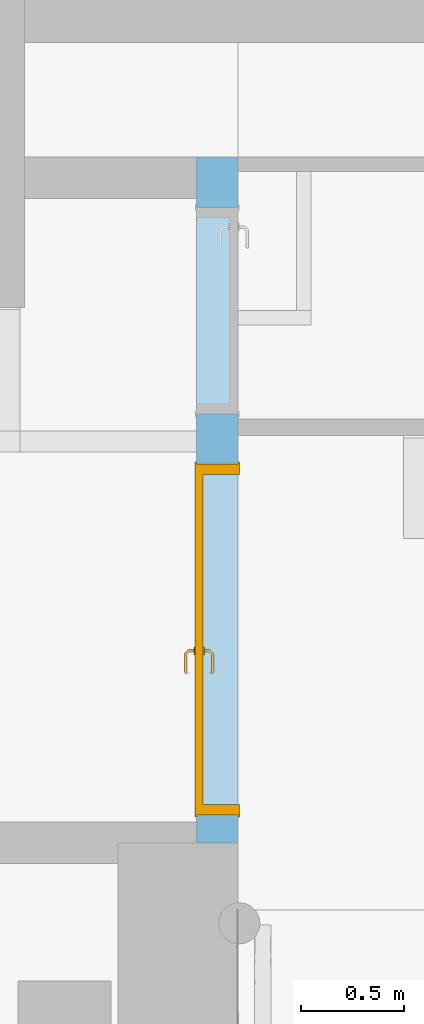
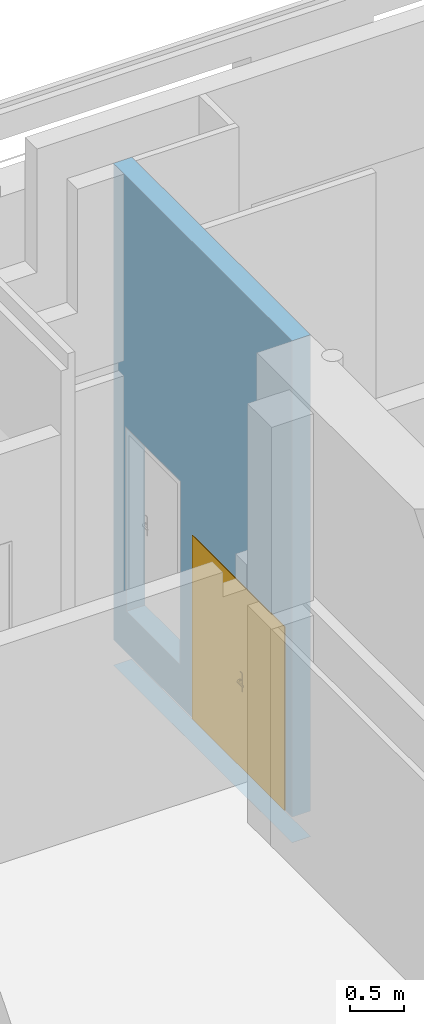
# One storey, part 17 of 39: 1 door, 2 openings, plus 1 element that does not belong to this part.
"""IFC4 building model written with IfcOpenShell, lengths in metres."""

from ifc_helpers import new_model, entity, si_unit, converted_unit, derived_unit, direction, frame, origin, place, context, subcontext, project, spatial, indexed_curve, outline, extrude, polygons, source, transform, mapped, material, material_list, layer, layer_set, constituent, constituent_set, type_object, type_shapes, element, fill, save


model = new_model("IFC4")

# Units and contexts
model_context = context("Model", 3, precision=1e-05, world=origin(), true_north=direction((6.12303176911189e-17, 1.0)))
body_context = subcontext(model_context, "Body", "Model", "MODEL_VIEW")
ifc_project = project(units=[si_unit("LENGTHUNIT", "METRE"), si_unit("AREAUNIT", "SQUARE_METRE"), si_unit("VOLUMEUNIT", "CUBIC_METRE"), converted_unit("PLANEANGLEUNIT", "DEGREE", entity("IfcRatioMeasure", 0.0174532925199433), si_unit("PLANEANGLEUNIT", "RADIAN"), dimensions=[0, 0, 0, 0, 0, 0, 0]), si_unit("MASSUNIT", "GRAM", prefix="KILO"), derived_unit("MASSDENSITYUNIT", [(si_unit("MASSUNIT", "GRAM", prefix="KILO"), 1), (si_unit("LENGTHUNIT", "METRE"), -3)]), derived_unit("MOMENTOFINERTIAUNIT", [(si_unit("LENGTHUNIT", "METRE"), 4)]), si_unit("TIMEUNIT", "SECOND"), si_unit("FREQUENCYUNIT", "HERTZ"), si_unit("THERMODYNAMICTEMPERATUREUNIT", "DEGREE_CELSIUS"), derived_unit("THERMALTRANSMITTANCEUNIT", [(si_unit("MASSUNIT", "GRAM", prefix="KILO"), 1), (si_unit("THERMODYNAMICTEMPERATUREUNIT", "KELVIN"), -1), (si_unit("TIMEUNIT", "SECOND"), -3)]), derived_unit("VOLUMETRICFLOWRATEUNIT", [(si_unit("LENGTHUNIT", "METRE"), 3), (si_unit("TIMEUNIT", "SECOND"), -1)]), si_unit("ELECTRICCURRENTUNIT", "AMPERE"), si_unit("ELECTRICVOLTAGEUNIT", "VOLT"), si_unit("POWERUNIT", "WATT"), si_unit("FORCEUNIT", "NEWTON", prefix="KILO"), si_unit("ILLUMINANCEUNIT", "LUX"), si_unit("LUMINOUSFLUXUNIT", "LUMEN"), si_unit("LUMINOUSINTENSITYUNIT", "CANDELA"), derived_unit("USERDEFINED", [(si_unit("MASSUNIT", "GRAM", prefix="KILO"), -1), (si_unit("LENGTHUNIT", "METRE"), -2), (si_unit("TIMEUNIT", "SECOND"), 3), (si_unit("LUMINOUSFLUXUNIT", "LUMEN"), 1)]), derived_unit("LINEARVELOCITYUNIT", [(si_unit("LENGTHUNIT", "METRE"), 1), (si_unit("TIMEUNIT", "SECOND"), -1)]), si_unit("PRESSUREUNIT", "PASCAL"), derived_unit("USERDEFINED", [(si_unit("LENGTHUNIT", "METRE"), -2), (si_unit("MASSUNIT", "GRAM", prefix="KILO"), 1), (si_unit("TIMEUNIT", "SECOND"), -2)]), derived_unit("LINEARFORCEUNIT", [(si_unit("MASSUNIT", "GRAM", prefix="KILO"), 1), (si_unit("LENGTHUNIT", "METRE"), 1), (si_unit("TIMEUNIT", "SECOND"), -2), (si_unit("LENGTHUNIT", "METRE"), -1)]), derived_unit("PLANARFORCEUNIT", [(si_unit("MASSUNIT", "GRAM", prefix="KILO"), 1), (si_unit("LENGTHUNIT", "METRE"), 1), (si_unit("TIMEUNIT", "SECOND"), -2), (si_unit("LENGTHUNIT", "METRE"), -2)])], contexts=[model_context])

# Site, building, storey
site_placement = place(None, origin())
site = spatial("IfcSite", under=ifc_project, at=site_placement, Name="Default", CompositionType="ELEMENT")
building_placement = place(site_placement, origin())
building = spatial("IfcBuilding", under=site, at=building_placement, Name="HOTEL CONSULAIRE BOULOGNE SUR MER", CompositionType="ELEMENT")
storey_placement = place(building_placement, frame((0.0, 0.0, -5.02343668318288)))
storey = spatial("IfcBuildingStorey", under=building, at=storey_placement, Name="SS3", CompositionType="ELEMENT", Elevation=-5.02343668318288)

# Wall, openings, door
ifc_material_1 = material(Name="Mur par défaut", Category="Divers")
ifc_layer = layer(ifc_material_1, 0.2, Name="Mur par défaut", Category="Divers")
ifc_layer_set = layer_set([ifc_layer], Name="Mur de base:Générique - Int.200")
wall_type = type_object("IfcWallType", Name="Mur de base:Générique - Int.200", PredefinedType="NOTDEFINED", material=ifc_layer_set)
wall_placement = place(storey_placement, frame((12.2592268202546, -14.745051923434, -0.94091907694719), z_axis=(0.0, 0.0, 1.0), x_axis=(0.0, 1.0, 0.0)))
wall = element("IfcWall", 1, at=wall_placement, inside=storey, type_object=wall_type, material=ifc_layer_set, Name="Mur de base:Générique - Int.200", ObjectType="Mur de base:Générique - Int.200", PredefinedType="NOTDEFINED", context=body_context, shape_type="Tessellation", body=[
    polygons([(3.32237229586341, -0.0999999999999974, 0.0), (3.32237229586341, 0.100000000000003, 0.0), (3.32237229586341, 0.100000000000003, 0.000919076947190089), (3.32237229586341, -0.0999999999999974, 0.000919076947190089), (0.0, -0.0999999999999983, 0.0), (0.0, -0.0999999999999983, 0.000919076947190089), (0.0, 0.100000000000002, 0.0), (0.0, 0.100000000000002, 0.000919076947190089)], [[[4, 1, 2, 3]], [[6, 5, 1, 4]], [[3, 2, 7, 8]], [[1, 5, 7, 2]], [[5, 6, 8, 7]], [[4, 3, 8, 6]]], closed=True),
    polygons([(3.32237229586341, -0.0999999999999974, 5.6943557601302), (3.25237229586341, -0.0999999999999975, 5.6943557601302), (2.05451902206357, -0.0999999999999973, 5.6943557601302), (1.97451902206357, -0.0999999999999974, 5.6943557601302), (0.0, -0.0999999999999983, 5.6943557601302), (0.0, -0.0999999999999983, 0.29091907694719), (0.134775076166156, -0.0999999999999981, 0.29091907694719), (0.134775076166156, -0.0999999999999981, 2.36591907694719), (1.83477507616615, -0.0999999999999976, 2.36591907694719), (1.83477507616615, -0.0999999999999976, 0.29091907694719), (3.32237229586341, -0.0999999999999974, 0.29091907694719), (3.32237229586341, -0.0999999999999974, 0.760919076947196), (2.0783722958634, -0.0999999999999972, 0.75991907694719), (2.0783722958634, -0.0999999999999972, 2.83491907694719), (3.0783722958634, -0.0999999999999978, 2.83491907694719), (3.0783722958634, -0.0999999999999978, 0.75991907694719), (0.0, 0.100000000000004, 0.29091907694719), (0.0999999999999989, 0.100000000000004, 0.29091907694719), (0.134775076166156, 0.100000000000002, 0.29091907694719), (0.0, 0.100000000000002, 5.6943557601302), (3.12237229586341, 0.100000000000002, 5.6943557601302), (3.32237229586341, 0.100000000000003, 5.6943557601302), (3.32237229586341, 0.100000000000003, 0.75707471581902), (3.32237229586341, 0.100000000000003, 0.29091907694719), (1.99477507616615, 0.100000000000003, 0.29091907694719), (1.89477507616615, 0.100000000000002, 0.29091907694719), (1.83477507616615, 0.100000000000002, 0.29091907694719), (1.83477507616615, 0.100000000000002, 2.36591907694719), (0.134775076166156, 0.100000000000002, 2.36591907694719), (0.0, 0.100000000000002, 3.40490955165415), (0.0, 0.100000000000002, 3.41091907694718), (0.0, 0.100000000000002, 3.57490955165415), (2.0783722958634, 0.100000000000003, 2.83491907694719), (2.0783722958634, 0.100000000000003, 0.75991907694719), (3.0783722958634, 0.100000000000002, 0.75991907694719), (3.0783722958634, 0.100000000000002, 2.83491907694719)], [[[6, 7, 8, 9, 10, 11, 12, 1, 2, 3, 4, 5], [14, 15, 16, 13]], [[18, 19, 7, 6, 17]], [[15, 14, 33, 36]], [[9, 8, 29, 28]], [[25, 24, 11, 10, 27, 26]], [[23, 24, 25, 26, 27, 28, 29, 19, 18, 17, 30, 31, 32, 20, 21, 22], [35, 36, 33, 34]], [[6, 5, 20, 32, 31, 30, 17]], [[16, 15, 36, 35]], [[10, 9, 28, 27]], [[3, 2, 1, 22, 21, 20, 5, 4]], [[13, 16, 35, 34]], [[12, 11, 24, 23, 22, 1]], [[14, 13, 34, 33]], [[8, 7, 19, 29]]], closed=True),
])
opening_1_placement = place(wall_placement, frame((3.0783722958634, 0.0999999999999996, 0.75991907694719)))
element("IfcOpeningElement", 2, at=opening_1_placement, cuts=wall, Name="Int. Simple:PP0.93x2.04:1", ObjectType="Opening", PredefinedType="OPENING", context=body_context, shape_type="SweptSolid", body=[
    extrude(outline(indexed_curve([(0.0, 1.0), (0.0, 0.0), (2.075, 0.0), (2.075, 1.0), (0.0, 1.0)], self_intersect=False)), frame((0.0, 0.0, 0.0), z_axis=(0.0, -1.0, 0.0), x_axis=(0.0, 0.0, 1.0)), (0.0, 0.0, 1.0), 0.2),
])
opening_2_placement = place(wall_placement, frame((0.134775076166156, -0.0999999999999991, 0.29091907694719)))
opening_2 = element("IfcOpeningElement", 3, at=opening_2_placement, cuts=wall, Name="Double (R):1.63m x 2.04m:1", ObjectType="Opening", PredefinedType="OPENING", context=body_context, shape_type="SweptSolid", body=[
    extrude(outline(indexed_curve([(0.0, -2.61302627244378e-30), (2.075, -2.61302627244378e-30), (2.075, 1.7), (0.0, 1.7), (0.0, -2.61302627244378e-30)], self_intersect=False)), frame((0.0, 0.0, 0.0), z_axis=(0.0, 1.0, 0.0), x_axis=(0.0, 0.0, 1.0)), (0.0, 0.0, 1.0), 0.2),
])
ifc_material_2 = material(Name="Porte - Poignée", Category="Métal")
ifc_constituent_1 = constituent(ifc_material_2, Name="Porte - Poignée", Category="Matériaux")
ifc_material_3 = material(Name="Porte - Cadre", Category="Peinture")
ifc_constituent_2 = constituent(ifc_material_3, Name="Porte - Cadre", Category="Matériaux")
ifc_material_4 = material(Name="Porte - Panneau", Category="Bois")
ifc_constituent_3 = constituent(ifc_material_4, Name="Porte - Panneau", Category="Matériaux")
ifc_constituent_set = constituent_set(constituents=[ifc_constituent_1, ifc_constituent_2, ifc_constituent_3], Name="MaterialConstituentSet")
ifc_material_list = material_list([ifc_material_2, ifc_material_4, ifc_material_3])
door_type = type_object("IfcDoorType", Name="Double (R):1.63m x 2.04m", OperationType="DOUBLE_DOOR_SINGLE_SWING", PredefinedType="DOOR", material=ifc_material_list)
shared_shape = source(origin(), body_context, "Body", "Tessellation", [
    polygons([(0.91100000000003, 0.0369999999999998, 0.993000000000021), (0.911000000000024, 0.0369999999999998, 1.00699999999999), (0.907025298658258, 0.0369999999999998, 1.00778044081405), (0.902974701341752, 0.0369999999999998, 1.00778044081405), (0.898999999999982, 0.0369999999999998, 1.00699999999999), (0.898999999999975, 0.0369999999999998, 0.992999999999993), (0.902974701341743, 0.0369999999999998, 0.992219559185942), (0.907025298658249, 0.0369999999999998, 0.992219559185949), (0.91100000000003, 0.0594852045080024, 0.993000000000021), (0.91100000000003, 0.0594852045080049, 1.00699999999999), (0.907025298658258, 0.061131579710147, 1.00778044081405), (0.902974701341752, 0.062809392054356, 1.00778044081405), (0.898999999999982, 0.0644557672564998, 1.00699999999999), (0.898999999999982, 0.0644557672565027, 0.992999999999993), (0.902974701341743, 0.0628093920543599, 0.992219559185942), (0.907025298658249, 0.0611315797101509, 0.992219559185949), (0.922485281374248, 0.0709704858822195, 0.993000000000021), (0.92248528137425, 0.0709704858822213, 1.00699999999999), (0.920838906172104, 0.0749451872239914, 1.00778044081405), (0.919161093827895, 0.0789957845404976, 1.00778044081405), (0.917514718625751, 0.0829704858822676, 1.00699999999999), (0.917514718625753, 0.0829704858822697, 0.992999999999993), (0.919161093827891, 0.078995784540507, 0.992219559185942), (0.9208389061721, 0.0749451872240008, 0.992219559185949), (1.0025605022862, 0.0709704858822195, 0.993000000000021), (1.00256050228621, 0.0709704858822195, 1.00699999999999), (1.00420687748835, 0.0749451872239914, 1.00778044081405), (1.00588468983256, 0.0789957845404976, 1.00778044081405), (1.0075310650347, 0.0829704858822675, 1.00699999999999), (0.967600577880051, 0.0829704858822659, 1.00699999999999), (0.962522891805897, 0.0771249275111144, 1.00787811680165), (0.962522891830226, 0.0709704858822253, 1.00699999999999), (1.0075310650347, 0.0829704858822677, 0.992999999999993), (1.00588468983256, 0.078995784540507, 0.992219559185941), (1.00420687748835, 0.0749451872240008, 0.992219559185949), (0.957445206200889, 0.0829704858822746, 0.992999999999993), (0.962522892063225, 0.0771249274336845, 0.992121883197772), (0.962522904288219, 0.0709704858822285, 0.993000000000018), (1.00787421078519, 0.0656567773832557, 0.993000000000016), (1.01068474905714, 0.0684673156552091, 0.992219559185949), (1.0135489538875, 0.071331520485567, 0.992219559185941), (1.01635949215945, 0.0741420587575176, 0.992999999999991), (1.01635949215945, 0.074142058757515, 1.00699999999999), (1.0135489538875, 0.0713315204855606, 1.00778044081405), (1.01068474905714, 0.0684673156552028, 1.00778044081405), (1.00787421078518, 0.065656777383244, 1.00699999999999)], [[[4, 5, 6, 7, 8, 1, 2, 3]], [[18, 17, 38, 25, 26, 32]], [[2, 1, 9, 10]], [[10, 11, 3, 2]], [[11, 19, 20, 12, 4, 3]], [[45, 44, 28, 27]], [[12, 13, 5, 4]], [[6, 5, 13, 14]], [[14, 15, 7, 6]], [[15, 23, 24, 16, 8, 7]], [[41, 40, 35, 34]], [[16, 9, 1, 8]], [[10, 9, 17, 18]], [[39, 40, 41, 42, 43, 44, 45, 46]], [[18, 19, 11, 10]], [[20, 21, 13, 12]], [[14, 13, 21, 22]], [[22, 23, 15, 14]], [[24, 17, 9, 16]], [[19, 32, 31]], [[28, 29, 30]], [[21, 20, 30]], [[30, 20, 31]], [[31, 32, 27]], [[27, 28, 31]], [[32, 19, 18]], [[26, 27, 32]], [[19, 31, 20]], [[30, 31, 28]], [[22, 21, 30, 29, 33, 36]], [[36, 37, 23]], [[37, 36, 34]], [[23, 22, 36]], [[33, 34, 36]], [[37, 38, 24]], [[24, 23, 37]], [[35, 38, 37]], [[17, 24, 38]], [[38, 35, 25]], [[35, 37, 34]], [[26, 25, 39, 46]], [[46, 45, 27, 26]], [[44, 43, 29, 28]], [[33, 29, 43, 42]], [[42, 41, 34, 33]], [[40, 39, 25, 35]]], closed=True),
    polygons([(0.898999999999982, -0.0130000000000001, 1.00699999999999), (0.902974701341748, -0.0130000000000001, 1.00778044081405), (0.907025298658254, -0.0130000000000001, 1.00778044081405), (0.911000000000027, -0.0130000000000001, 1.00699999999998), (0.911000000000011, -0.0130000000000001, 0.993000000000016), (0.907025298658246, -0.0130000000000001, 0.992219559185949), (0.90297470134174, -0.0130000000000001, 0.992219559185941), (0.898999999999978, -0.0130000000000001, 0.992999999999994), (0.898999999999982, -0.0406509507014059, 1.00699999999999), (0.902974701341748, -0.0390045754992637, 1.00778044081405), (0.907025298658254, -0.0373267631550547, 1.00778044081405), (0.911000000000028, -0.0356803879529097, 1.00699999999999), (0.911000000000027, -0.0356803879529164, 0.993000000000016), (0.907025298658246, -0.037326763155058, 0.992219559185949), (0.90297470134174, -0.039004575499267, 0.992219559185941), (0.898999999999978, -0.0406509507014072, 0.992999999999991), (0.917377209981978, -0.0590281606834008, 1.00699999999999), (0.91902358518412, -0.0550534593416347, 1.00778044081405), (0.920701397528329, -0.0510028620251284, 1.00778044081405), (0.922347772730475, -0.0470281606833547, 1.00699999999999), (0.922347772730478, -0.0470281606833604, 0.993000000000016), (0.920701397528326, -0.0510028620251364, 0.992219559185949), (0.919023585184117, -0.0550534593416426, 0.992219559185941), (0.917377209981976, -0.0590281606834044, 0.992999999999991), (1.00750392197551, -0.0590281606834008, 1.00699999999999), (1.00585754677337, -0.0550534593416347, 1.00778044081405), (1.00417973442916, -0.0510028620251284, 1.00778044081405), (1.00253335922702, -0.0470281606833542, 1.00699999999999), (0.957307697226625, -0.0590281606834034, 1.00699999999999), (0.962440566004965, -0.0531828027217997, 1.00787811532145), (0.962440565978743, -0.0470281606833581, 1.00699999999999), (1.00253335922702, -0.0470281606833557, 0.993000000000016), (1.00417973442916, -0.0510028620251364, 0.992219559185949), (1.00585754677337, -0.0550534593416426, 0.992219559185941), (1.00750392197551, -0.0590281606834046, 0.992999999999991), (0.967573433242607, -0.0590281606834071, 0.992999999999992), (0.96244056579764, -0.0531828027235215, 0.992121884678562), (0.962440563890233, -0.0470281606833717, 0.993000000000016), (1.01633234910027, -0.0501997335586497, 1.00699999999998), (1.01633234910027, -0.0501997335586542, 0.992999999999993), (1.01352181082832, -0.0473891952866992, 0.992219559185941), (1.01065760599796, -0.0445249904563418, 0.992219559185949), (1.00784706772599, -0.0417144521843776, 0.993000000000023), (1.007847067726, -0.041714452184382, 1.00699999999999), (1.01065760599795, -0.044524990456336, 1.00778044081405), (1.01352181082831, -0.0473891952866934, 1.00778044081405)], [[[2, 3, 4, 5, 6, 7, 8, 1]], [[21, 20, 31, 28, 32, 38]], [[9, 10, 2, 1]], [[10, 18, 19, 11, 3, 2]], [[46, 45, 27, 26]], [[11, 12, 4, 3]], [[5, 4, 12, 13]], [[13, 14, 6, 5]], [[14, 22, 23, 15, 7, 6]], [[42, 41, 34, 33]], [[15, 16, 8, 7]], [[1, 8, 16, 9]], [[17, 18, 10, 9]], [[19, 20, 12, 11]], [[13, 12, 20, 21]], [[44, 45, 46, 39, 40, 41, 42, 43]], [[21, 22, 14, 13]], [[23, 24, 16, 15]], [[9, 16, 24, 17]], [[29, 30, 18]], [[30, 29, 26]], [[18, 17, 29]], [[25, 26, 29]], [[30, 31, 19]], [[19, 18, 30]], [[27, 31, 30]], [[20, 19, 31]], [[31, 27, 28]], [[27, 30, 26]], [[22, 38, 37]], [[34, 35, 36]], [[24, 23, 36]], [[36, 23, 37]], [[37, 38, 33]], [[33, 34, 37]], [[38, 22, 21]], [[32, 33, 38]], [[22, 37, 23]], [[36, 37, 34]], [[17, 24, 36, 35, 25, 29]], [[39, 46, 26, 25]], [[45, 44, 28, 27]], [[32, 28, 44, 43]], [[43, 42, 33, 32]], [[41, 40, 35, 34]], [[25, 35, 40, 39]]], closed=True),
    polygons([(0.924999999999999, 0.0319999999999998, 1.08), (0.9153527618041, 0.0319999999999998, 1.08399601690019), (0.904999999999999, 0.0319999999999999, 1.08535898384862), (0.894647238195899, 0.0319999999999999, 1.08399601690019), (0.885, 0.0319999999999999, 1.08), (0.885, 0.0319999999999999, 0.870000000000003), (0.894647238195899, 0.0319999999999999, 0.866003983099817), (0.904999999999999, 0.0319999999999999, 0.864641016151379), (0.9153527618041, 0.0319999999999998, 0.866003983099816), (0.924999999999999, 0.0319999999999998, 0.870000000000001), (0.924999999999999, 0.0369999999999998, 1.08), (0.924999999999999, 0.0369999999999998, 0.870000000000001), (0.9153527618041, 0.0369999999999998, 0.866003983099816), (0.904999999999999, 0.0369999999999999, 0.864641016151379), (0.894647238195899, 0.0369999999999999, 0.866003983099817), (0.885, 0.0369999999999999, 0.870000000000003), (0.885, 0.0369999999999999, 1.08), (0.894647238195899, 0.0369999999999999, 1.08399601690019), (0.904999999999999, 0.0369999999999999, 1.08535898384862), (0.9153527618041, 0.0369999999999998, 1.08399601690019)], [[[9, 10, 1, 2, 3, 4, 5, 6, 7, 8]], [[20, 11, 12, 13, 14, 15, 16, 17, 18, 19]], [[11, 20, 2, 1]], [[2, 20, 19, 3]], [[19, 18, 4, 3]], [[18, 17, 5, 4]], [[6, 5, 17, 16]], [[16, 15, 7, 6]], [[7, 15, 14, 8]], [[14, 13, 9, 8]], [[13, 12, 10, 9]], [[1, 10, 12, 11]]], closed=True),
    polygons([(0.885, -0.0130000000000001, 0.870000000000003), (0.894647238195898, -0.0130000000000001, 0.866003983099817), (0.904999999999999, -0.0130000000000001, 0.864641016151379), (0.9153527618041, -0.0130000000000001, 0.866003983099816), (0.924999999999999, -0.0130000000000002, 0.870000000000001), (0.924999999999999, -0.0130000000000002, 1.08), (0.9153527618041, -0.0130000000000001, 1.08399601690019), (0.904999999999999, -0.0130000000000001, 1.08535898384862), (0.894647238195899, -0.0130000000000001, 1.08399601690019), (0.885, -0.0130000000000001, 1.08), (0.885, -0.00800000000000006, 0.870000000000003), (0.885, -0.00800000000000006, 1.08), (0.894647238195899, -0.00800000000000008, 1.08399601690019), (0.904999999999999, -0.00800000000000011, 1.08535898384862), (0.9153527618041, -0.00800000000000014, 1.08399601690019), (0.924999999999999, -0.00800000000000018, 1.08), (0.924999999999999, -0.00800000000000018, 0.870000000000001), (0.9153527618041, -0.00800000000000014, 0.866003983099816), (0.904999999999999, -0.00800000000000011, 0.864641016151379), (0.894647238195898, -0.00800000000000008, 0.866003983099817)], [[[4, 5, 6, 7, 8, 9, 10, 1, 2, 3]], [[15, 16, 17, 18, 19, 20, 11, 12, 13, 14]], [[11, 20, 2, 1]], [[2, 20, 19, 3]], [[19, 18, 4, 3]], [[18, 17, 5, 4]], [[6, 5, 17, 16]], [[16, 15, 7, 6]], [[7, 15, 14, 8]], [[14, 13, 9, 8]], [[13, 12, 10, 9]], [[1, 10, 12, 11]]], closed=True),
    polygons([(0.0, 0.0, 0.0), (0.0, 0.200000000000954, 0.0), (-0.01, 0.200000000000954, 0.0), (-0.01, 0.208000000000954, 0.0), (0.0499999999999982, 0.208000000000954, 0.0), (0.0499999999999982, 0.032, 0.0), (0.0349999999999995, 0.032, 0.0), (0.0349999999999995, -0.00799999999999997, 0.0), (-0.01, -0.00799999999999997, 0.0), (-0.01, 0.0, 0.0), (0.0, 0.0, 2.075), (0.0, 0.200000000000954, 2.075), (1.7, 0.200000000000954, 2.075), (1.7, 0.200000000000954, -8.06798882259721e-24), (1.71, 0.200000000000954, -4.03399441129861e-24), (1.71, 0.200000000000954, 2.085), (-0.01, 0.200000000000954, 2.085), (-0.01, 0.208000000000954, 2.085), (1.71, 0.208000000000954, 2.085), (1.71, 0.208000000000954, 0.0), (1.65, 0.208000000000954, 4.03399441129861e-24), (1.65, 0.208000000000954, 2.025), (0.0499999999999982, 0.208000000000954, 2.025), (0.0499999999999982, 0.032, 2.025), (1.65, 0.032, 2.025), (1.65, 0.032, 0.0), (1.665, 0.032, 8.06798882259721e-24), (1.665, 0.032, 2.04), (0.0349999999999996, 0.032, 2.04), (0.0349999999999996, -0.00799999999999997, 2.04), (1.665, -0.00799999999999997, 2.04), (1.665, -0.00799999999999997, -3.95489669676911e-25), (1.71, -0.00799999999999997, -5.61595299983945e-24), (1.71, -0.00799999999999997, 2.085), (-0.01, -0.00799999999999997, 2.085), (-0.01, 0.0, 2.085), (1.71, 0.0, 2.085), (1.71, 0.0, 0.0), (1.7, 0.0, -4.03399441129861e-24), (1.7, 0.0, 2.075)], [[[2, 3, 4, 5, 6, 7, 8, 9, 10, 1]], [[20, 15, 14, 39, 38, 33, 32, 27, 26, 21]], [[24, 23, 22, 25]], [[30, 29, 28, 31]], [[2, 1, 11, 12]], [[4, 3, 17, 18]], [[10, 9, 35, 36]], [[25, 22, 21, 26]], [[31, 28, 27, 32]], [[14, 15, 16, 17, 3, 2, 12, 13]], [[26, 27, 28, 29, 7, 6, 24, 25]], [[32, 33, 34, 35, 9, 8, 30, 31]], [[5, 4, 18, 19, 20, 21, 22, 23]], [[1, 10, 36, 37, 38, 39, 40, 11]], [[6, 5, 23, 24]], [[8, 7, 29, 30]], [[13, 40, 39, 14]], [[19, 16, 15, 20]], [[37, 34, 33, 38]], [[12, 11, 40, 13]], [[18, 17, 16, 19]], [[36, 35, 34, 37]]], closed=True),
    polygons([(1.665, -0.00799999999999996, 0.0), (1.665, -0.00799999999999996, 2.04), (0.85, -0.00799999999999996, 2.04), (0.85, -0.00799999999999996, 0.0), (1.665, 0.032, 0.0), (0.85, 0.032, 0.0), (0.85, 0.032, 2.04), (1.665, 0.032, 2.04)], [[[4, 1, 2, 3]], [[7, 8, 5, 6]], [[2, 1, 5, 8]], [[3, 2, 8, 7]], [[4, 3, 7, 6]], [[1, 4, 6, 5]]], closed=True),
    polygons([(0.0349999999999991, -0.00799999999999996, 2.04), (0.0349999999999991, -0.00799999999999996, 2.00530949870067e-18), (0.85, -0.00799999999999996, 0.0), (0.85, -0.00799999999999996, 2.04), (0.0349999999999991, 0.032, 2.04), (0.85, 0.032, 2.04), (0.85, 0.032, -2.34809378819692e-34), (0.0349999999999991, 0.032, 0.0)], [[[4, 1, 2, 3]], [[7, 8, 5, 6]], [[2, 1, 5, 8]], [[3, 2, 8, 7]], [[4, 3, 7, 6]], [[1, 4, 6, 5]]], closed=True),
])
type_shapes(door_type, [shared_shape])
door_placement = place(opening_2_placement, frame((1.7, 0.199999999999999, 0.0), z_axis=(0.0, 0.0, 1.0), x_axis=(-1.0, 0.0, 0.0)))
door = element("IfcDoor", 4, at=door_placement, inside=storey, type_object=door_type, material=ifc_constituent_set, Name="Double (R):1.63m x 2.04m", ObjectType="Double (R):1.63m x 2.04m", OperationType="DOUBLE_DOOR_SINGLE_SWING", OverallHeight=2.075, OverallWidth=1.7, PredefinedType="DOOR", context=body_context, shape_type="MappedRepresentation", body=[
    mapped(shared_shape, transform((0.0, 0.0, 0.0), scale=1.0)),
])
fill(opening_2, door)

save(model, "model.ifc")
